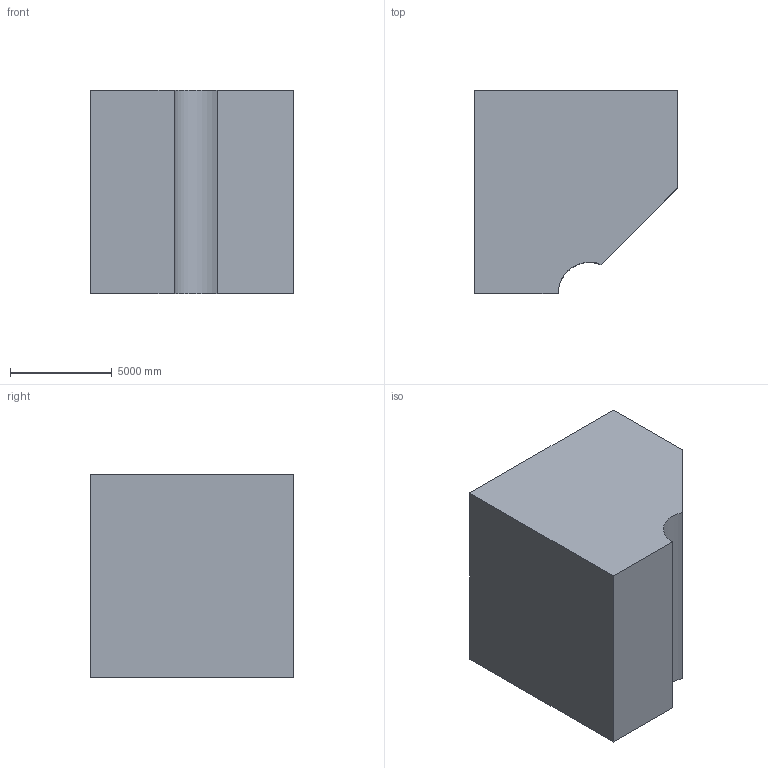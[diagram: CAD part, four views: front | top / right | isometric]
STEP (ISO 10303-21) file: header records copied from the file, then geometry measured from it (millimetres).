
FILE_DESCRIPTION (( 'STEP AP203' ), '1' );
FILE_NAME ('38.STEP', '2022-07-28T13:27:55', ( 'user' ), ( '' ), 'SwSTEP 2.0', 'SolidWorks 2021', '' );
FILE_SCHEMA (( 'CONFIG_CONTROL_DESIGN' ));
Length unit declared in the file: centimetre
Products named in the file (1): 38
Bounding box: 10000 x 10000 x 10000 mm (x, y, z)
Volume: 848152879113 mm3; surface area: 542221130.2 mm2
Topology: 1 solids, 1 shells, 8 faces, 18 edges, 12 vertices
Faces by surface type: plane 7, cylinder 1
Entity records: 301 total; most frequent: CARTESIAN_POINT 39, DIRECTION 38, ORIENTED_EDGE 36, EDGE_CURVE 18, VECTOR 16, LINE 16, VERTEX_POINT 12, AXIS2_PLACEMENT_3D 11
